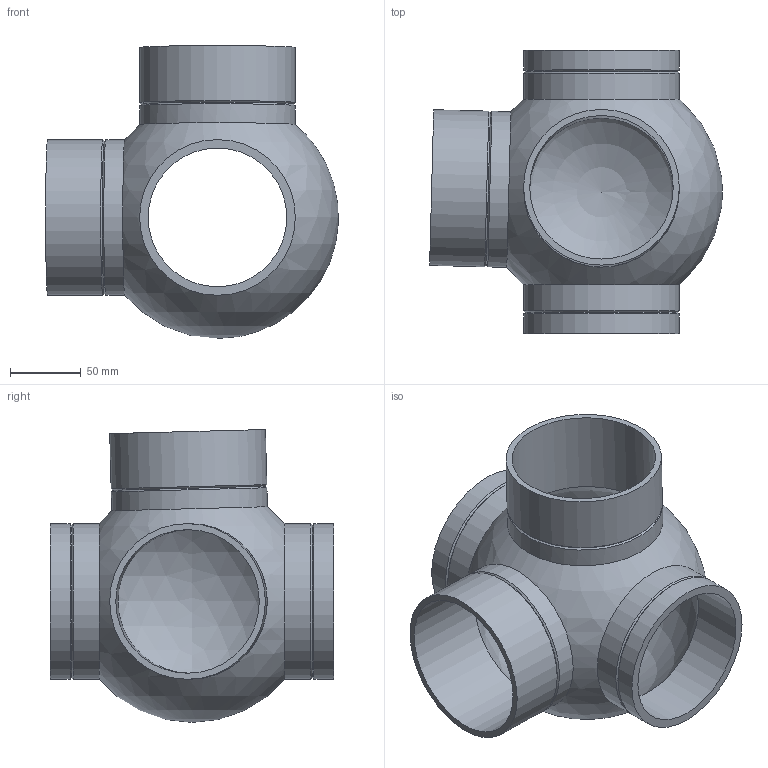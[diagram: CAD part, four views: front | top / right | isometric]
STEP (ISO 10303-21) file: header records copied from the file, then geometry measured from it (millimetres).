
FILE_DESCRIPTION(/* description */ (''),/* implementation_level */ '2;1');
FILE_NAME(/* name */ 'Z:\Geberit\Export\NewStep\367335.stp',/* time_stamp */ '2014-04-02T07:56:41+02:00',/* author */ ('nelson'),/* organization */ (''),/* preprocessor_version */ 'ST-DEVELOPER v15.2',/* originating_system */ 'Autodesk Inventor 2014',/* authorisation */ '');
FILE_SCHEMA (('AUTOMOTIVE_DESIGN { 1 0 10303 214 3 1 1 }'));
Length unit declared in the file: millimetre
Products named in the file (1): 367335
Bounding box: 206.79 x 200 x 206.9 mm (x, y, z)
Volume: 580209.7 mm3; surface area: 223124.3 mm2
Topology: 1 solids, 1 shells, 26 faces, 62 edges, 40 vertices
Faces by surface type: cylinder 12, cone 8, plane 4, sphere 2
Full cylindrical faces by diameter (mm): 98 x2, 101.4 x2, 110 x8
Entity records: 603 total; most frequent: DIRECTION 110, CARTESIAN_POINT 83, EDGE_LOOP 56, ORIENTED_EDGE 56, AXIS2_PLACEMENT_3D 55, FACE_BOUND 34, CIRCLE 28, VERTEX_POINT 28
